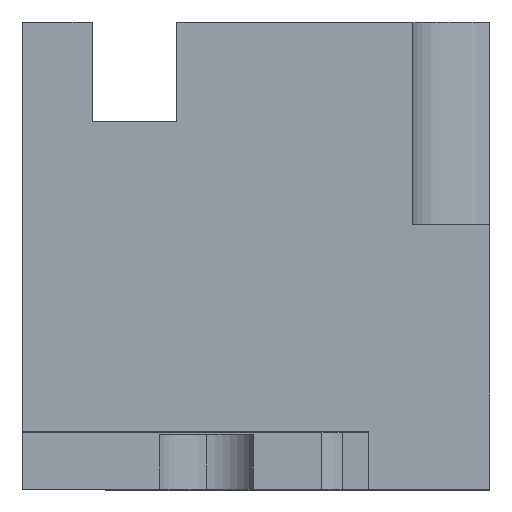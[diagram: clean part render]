
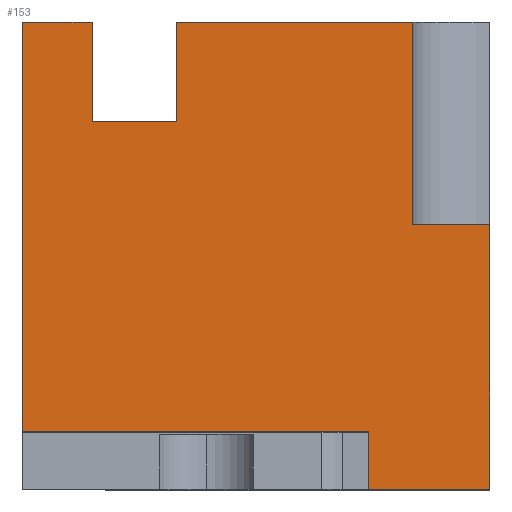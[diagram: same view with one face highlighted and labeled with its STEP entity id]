
A CAD part, top view. The second image highlights one B-rep face of the part: STEP entity #153.
In plain terms, the highlighted planar face has unit normal (0, 0, 1).
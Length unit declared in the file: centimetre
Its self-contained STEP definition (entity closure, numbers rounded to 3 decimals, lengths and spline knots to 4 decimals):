
#29 = CARTESIAN_POINT ( 'NONE',  ( 741.8675, 122.5574, 1000. ) ) ;
#49 = CARTESIAN_POINT ( 'NONE',  ( 149.4712, 787.9259, 1000. ) ) ;
#59 = PLANE ( 'NONE',  #721 ) ;
#63 = ORIENTED_EDGE ( 'NONE', *, *, #1186, .T. ) ;
#79 = VERTEX_POINT ( 'NONE', #605 ) ;
#84 = DIRECTION ( 'NONE',  ( -1., 0., 0. ) ) ;
#102 = VECTOR ( 'NONE', #1034, 100. ) ;
#111 = EDGE_CURVE ( 'NONE', #1253, #841, #1312, .T. ) ;
#123 = EDGE_CURVE ( 'NONE', #79, #282, #719, .T. ) ;
#134 = ORIENTED_EDGE ( 'NONE', *, *, #471, .T. ) ;
#141 = ORIENTED_EDGE ( 'NONE', *, *, #111, .T. ) ;
#152 = DIRECTION ( 'NONE',  ( 1., 0., 0. ) ) ;
#153 = ADVANCED_FACE ( 'NONE', ( #1201 ), #59, .T. ) ;
#165 = VERTEX_POINT ( 'NONE', #284 ) ;
#167 = ORIENTED_EDGE ( 'NONE', *, *, #1407, .F. ) ;
#202 = LINE ( 'NONE', #677, #380 ) ;
#213 = ORIENTED_EDGE ( 'NONE', *, *, #1361, .T. ) ;
#246 = CARTESIAN_POINT ( 'NONE',  ( 0., 0., 1000. ) ) ;
#247 = LINE ( 'NONE', #29, #836 ) ;
#282 = VERTEX_POINT ( 'NONE', #411 ) ;
#284 = CARTESIAN_POINT ( 'NONE',  ( 835.4445, 1000., 1000. ) ) ;
#340 = ORIENTED_EDGE ( 'NONE', *, *, #1172, .T. ) ;
#371 = DIRECTION ( 'NONE',  ( -1., 0., 0. ) ) ;
#376 = VECTOR ( 'NONE', #1141, 100. ) ;
#380 = VECTOR ( 'NONE', #1373, 100. ) ;
#385 = VERTEX_POINT ( 'NONE', #49 ) ;
#388 = DIRECTION ( 'NONE',  ( 0., -1., 0. ) ) ;
#403 = VERTEX_POINT ( 'NONE', #1462 ) ;
#411 = CARTESIAN_POINT ( 'NONE',  ( 0., 122.5574, 1000. ) ) ;
#436 = CARTESIAN_POINT ( 'NONE',  ( 741.8675, 0., 1000. ) ) ;
#470 = CARTESIAN_POINT ( 'NONE',  ( 330.0502, 787.9259, 1000. ) ) ;
#471 = EDGE_CURVE ( 'NONE', #403, #79, #850, .T. ) ;
#476 = VECTOR ( 'NONE', #388, 100. ) ;
#482 = CARTESIAN_POINT ( 'NONE',  ( 0., 566.1741, 1000. ) ) ;
#485 = CARTESIAN_POINT ( 'NONE',  ( 1000., 0., 1000. ) ) ;
#490 = LINE ( 'NONE', #482, #592 ) ;
#526 = VECTOR ( 'NONE', #152, 100. ) ;
#588 = VECTOR ( 'NONE', #1096, 100. ) ;
#592 = VECTOR ( 'NONE', #1322, 100. ) ;
#605 = CARTESIAN_POINT ( 'NONE',  ( 0., 1000., 1000. ) ) ;
#609 = EDGE_CURVE ( 'NONE', #1234, #1238, #1233, .T. ) ;
#650 = EDGE_CURVE ( 'NONE', #1042, #282, #247, .T. ) ;
#657 = CARTESIAN_POINT ( 'NONE',  ( 741.8675, 122.5574, 1000. ) ) ;
#671 = LINE ( 'NONE', #1128, #1301 ) ;
#677 = CARTESIAN_POINT ( 'NONE',  ( 1000., 1000., 1000. ) ) ;
#693 = CARTESIAN_POINT ( 'NONE',  ( 835.4445, 566.1741, 1000. ) ) ;
#712 = CARTESIAN_POINT ( 'NONE',  ( 330.0502, 787.9259, 1000. ) ) ;
#719 = LINE ( 'NONE', #1061, #476 ) ;
#721 = AXIS2_PLACEMENT_3D ( 'NONE', #1218, #1210, #867 ) ;
#722 = EDGE_CURVE ( 'NONE', #812, #1372, #490, .T. ) ;
#782 = DIRECTION ( 'NONE',  ( -1., 0., 0. ) ) ;
#786 = CARTESIAN_POINT ( 'NONE',  ( 741.8675, 0., 1000. ) ) ;
#812 = VERTEX_POINT ( 'NONE', #995 ) ;
#836 = VECTOR ( 'NONE', #371, 100. ) ;
#841 = VERTEX_POINT ( 'NONE', #485 ) ;
#850 = LINE ( 'NONE', #1082, #956 ) ;
#867 = DIRECTION ( 'NONE',  ( 1., 0., 0. ) ) ;
#883 = CARTESIAN_POINT ( 'NONE',  ( 0., 1000., 1000. ) ) ;
#922 = ORIENTED_EDGE ( 'NONE', *, *, #1071, .T. ) ;
#928 = ORIENTED_EDGE ( 'NONE', *, *, #123, .T. ) ;
#956 = VECTOR ( 'NONE', #1310, 100. ) ;
#995 = CARTESIAN_POINT ( 'NONE',  ( 1000., 566.1741, 1000. ) ) ;
#1004 = LINE ( 'NONE', #786, #1330 ) ;
#1013 = LINE ( 'NONE', #1221, #588 ) ;
#1016 = LINE ( 'NONE', #883, #1086 ) ;
#1031 = CARTESIAN_POINT ( 'NONE',  ( 835.4445, 566.1741, 1000. ) ) ;
#1034 = DIRECTION ( 'NONE',  ( 0., -1., 0. ) ) ;
#1042 = VERTEX_POINT ( 'NONE', #657 ) ;
#1061 = CARTESIAN_POINT ( 'NONE',  ( 0., 1000., 1000. ) ) ;
#1071 = EDGE_CURVE ( 'NONE', #385, #403, #1013, .T. ) ;
#1082 = CARTESIAN_POINT ( 'NONE',  ( 0., 1000., 1000. ) ) ;
#1086 = VECTOR ( 'NONE', #782, 100. ) ;
#1096 = DIRECTION ( 'NONE',  ( 0., 1., 0. ) ) ;
#1128 = CARTESIAN_POINT ( 'NONE',  ( 149.4712, 787.9259, 1000. ) ) ;
#1141 = DIRECTION ( 'NONE',  ( 0., -1., 0. ) ) ;
#1143 = ORIENTED_EDGE ( 'NONE', *, *, #609, .T. ) ;
#1172 = EDGE_CURVE ( 'NONE', #1238, #385, #671, .T. ) ;
#1186 = EDGE_CURVE ( 'NONE', #841, #812, #202, .T. ) ;
#1189 = EDGE_LOOP ( 'NONE', ( #1364, #167, #141, #63, #1512, #1441, #213, #1143, #340, #922, #134, #928 ) ) ;
#1201 = FACE_OUTER_BOUND ( 'NONE', #1189, .T. ) ;
#1210 = DIRECTION ( 'NONE',  ( 0., 0., 1. ) ) ;
#1218 = CARTESIAN_POINT ( 'NONE',  ( 0., 0., 1000. ) ) ;
#1221 = CARTESIAN_POINT ( 'NONE',  ( 149.4712, 787.9259, 1000. ) ) ;
#1228 = LINE ( 'NONE', #693, #376 ) ;
#1233 = LINE ( 'NONE', #712, #102 ) ;
#1234 = VERTEX_POINT ( 'NONE', #1486 ) ;
#1238 = VERTEX_POINT ( 'NONE', #470 ) ;
#1253 = VERTEX_POINT ( 'NONE', #436 ) ;
#1301 = VECTOR ( 'NONE', #84, 100. ) ;
#1310 = DIRECTION ( 'NONE',  ( -1., 0., 0. ) ) ;
#1312 = LINE ( 'NONE', #246, #526 ) ;
#1322 = DIRECTION ( 'NONE',  ( -1., 0., 0. ) ) ;
#1330 = VECTOR ( 'NONE', #1497, 100. ) ;
#1361 = EDGE_CURVE ( 'NONE', #165, #1234, #1016, .T. ) ;
#1364 = ORIENTED_EDGE ( 'NONE', *, *, #650, .F. ) ;
#1372 = VERTEX_POINT ( 'NONE', #1031 ) ;
#1373 = DIRECTION ( 'NONE',  ( 0., 1., 0. ) ) ;
#1407 = EDGE_CURVE ( 'NONE', #1253, #1042, #1004, .T. ) ;
#1441 = ORIENTED_EDGE ( 'NONE', *, *, #1443, .F. ) ;
#1443 = EDGE_CURVE ( 'NONE', #165, #1372, #1228, .T. ) ;
#1462 = CARTESIAN_POINT ( 'NONE',  ( 149.4712, 1000., 1000. ) ) ;
#1486 = CARTESIAN_POINT ( 'NONE',  ( 330.0502, 1000., 1000. ) ) ;
#1497 = DIRECTION ( 'NONE',  ( 0., 1., 0. ) ) ;
#1512 = ORIENTED_EDGE ( 'NONE', *, *, #722, .T. ) ;
